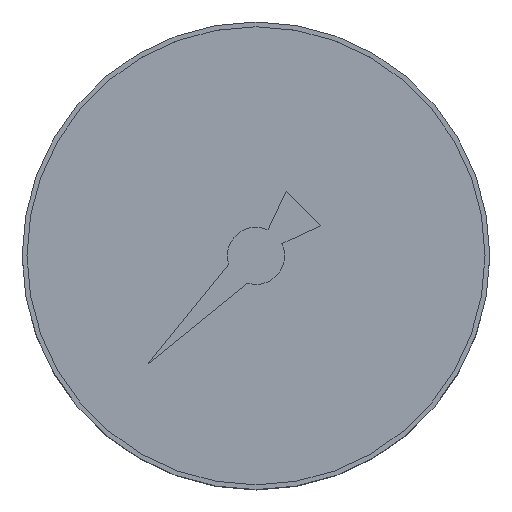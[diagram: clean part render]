
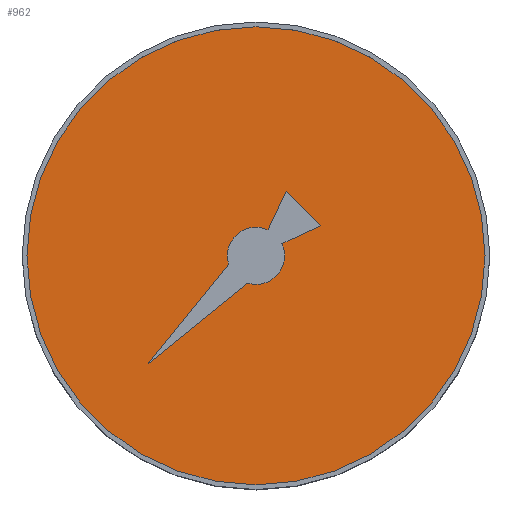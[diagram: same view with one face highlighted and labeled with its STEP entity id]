
A CAD part, top view. The second image highlights one B-rep face of the part: STEP entity #962.
In plain terms, the highlighted planar face has unit normal (0, 0, 1).
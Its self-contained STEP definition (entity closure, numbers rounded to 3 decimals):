
#275=CARTESIAN_POINT('',(0.,0.,46.5));
#276=DIRECTION('',(0.,0.,1.));
#277=DIRECTION('',(0.,1.,0.));
#278=AXIS2_PLACEMENT_3D('',#275,#276,#277);
#284=CARTESIAN_POINT('',(0.,0.,46.5));
#285=DIRECTION('',(0.,0.,-1.));
#286=DIRECTION('',(0.,1.,0.));
#287=AXIS2_PLACEMENT_3D('',#284,#285,#286);
#293=CARTESIAN_POINT('',(0.,0.,46.5));
#294=DIRECTION('',(0.,0.,1.));
#295=DIRECTION('',(1.,0.,0.));
#296=AXIS2_PLACEMENT_3D('',#293,#294,#295);
#298=CARTESIAN_POINT('',(0.,0.,46.5));
#299=DIRECTION('',(0.,0.,1.));
#300=DIRECTION('',(-1.,0.,0.));
#301=AXIS2_PLACEMENT_3D('',#298,#299,#300);
#453=CARTESIAN_POINT('',(0.,24.,46.5));
#454=CARTESIAN_POINT('',(0.,-24.,46.5));
#455=VERTEX_POINT('',#453);
#456=VERTEX_POINT('',#454);
#509=CARTESIAN_POINT('',(1.,0.,46.5));
#510=CARTESIAN_POINT('',(-1.,0.,46.5));
#511=VERTEX_POINT('',#509);
#512=VERTEX_POINT('',#510);
#947=CARTESIAN_POINT('',(0.,0.,46.5));
#948=DIRECTION('',(0.,0.,1.));
#949=DIRECTION('',(0.,1.,0.));
#950=AXIS2_PLACEMENT_3D('',#947,#948,#949);
#951=PLANE('',#950);
#952=ORIENTED_EDGE('',*,*,#941,.T.);
#953=ORIENTED_EDGE('',*,*,#927,.F.);
#954=EDGE_LOOP('',(#952,#953));
#955=FACE_OUTER_BOUND('',#954,.F.);
#957=ORIENTED_EDGE('',*,*,#956,.T.);
#959=ORIENTED_EDGE('',*,*,#958,.T.);
#960=EDGE_LOOP('',(#957,#959));
#961=FACE_BOUND('',#960,.F.);
#279=CIRCLE('',#278,24.);
#288=CIRCLE('',#287,24.);
#297=CIRCLE('',#296,1.);
#302=CIRCLE('',#301,1.);
#927=EDGE_CURVE('',#455,#456,#279,.T.);
#941=EDGE_CURVE('',#455,#456,#288,.T.);
#956=EDGE_CURVE('',#511,#512,#297,.T.);
#958=EDGE_CURVE('',#512,#511,#302,.T.);
#962=ADVANCED_FACE('',(#955,#961),#951,.T.);
